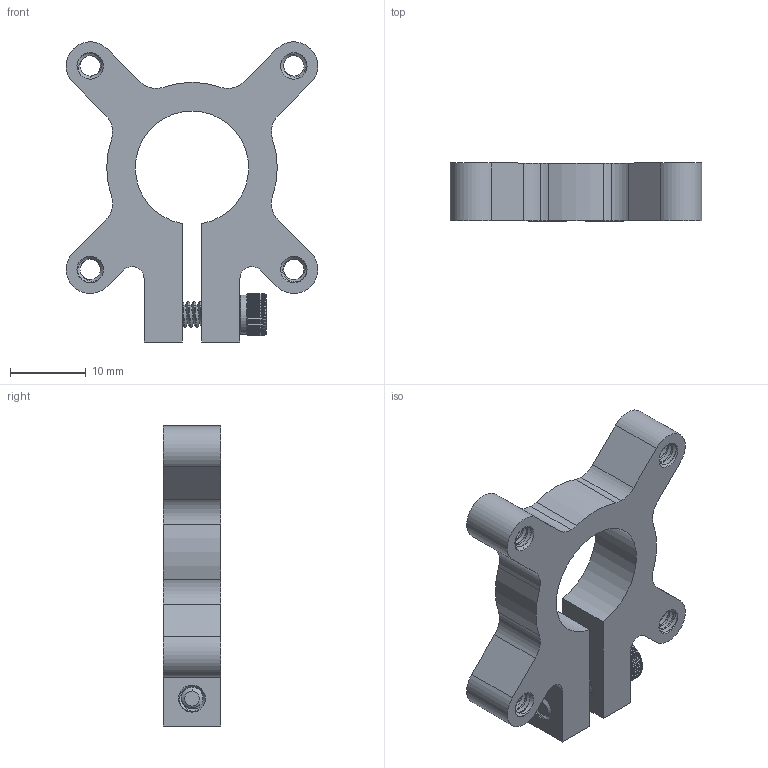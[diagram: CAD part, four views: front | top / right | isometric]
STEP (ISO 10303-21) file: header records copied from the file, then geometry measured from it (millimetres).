
FILE_DESCRIPTION (( 'STEP AP203' ), '1' );
FILE_NAME ('545678 assembly.STEP', '2017-06-30T22:06:27', ( '' ), ( '' ), 'SwSTEP 2.0', 'SolidWorks 2016', '' );
FILE_SCHEMA (( 'CONFIG_CONTROL_DESIGN' ));
Length unit declared in the file: inch
Products named in the file (3): 545678; 545678 assembly; 632114_90128A121
Assembly tree (2 placements, depth 2):
  545678 assembly
    545678
    632114_90128A121
Bounding box: 33.28 x 7.62 x 39.69 mm (x, y, z)
Volume: 4528.8 mm3; surface area: 3851.4 mm2
Topology: 2 solids, 2 shells, 1159 faces, 2904 edges, 1751 vertices
Faces by surface type: cylinder 502, bspline 454, plane 146, cone 38, torus 19
Entity records: 54644 total; most frequent: CARTESIAN_POINT 31368, ORIENTED_EDGE 5808, DIRECTION 3570, EDGE_CURVE 2904, VERTEX_POINT 1751, AXIS2_PLACEMENT_3D 1441, EDGE_LOOP 1173, FACE_OUTER_BOUND 1159
